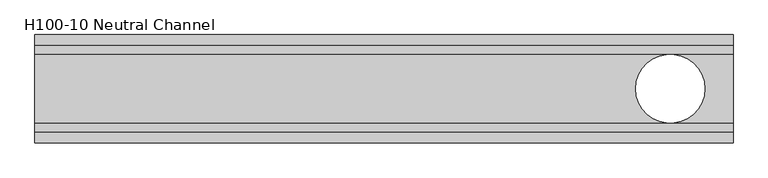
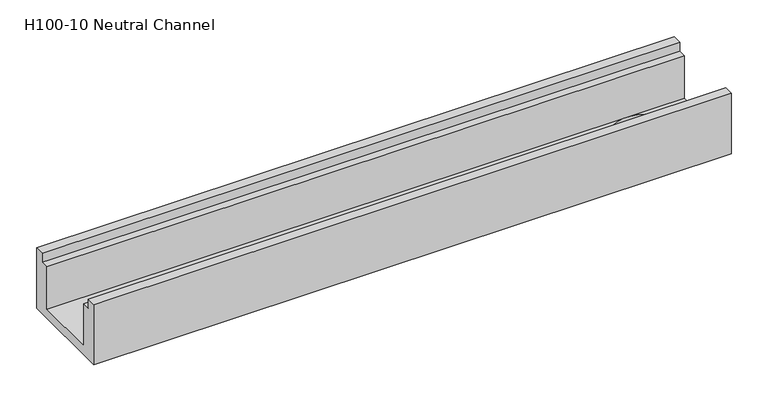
"""IFC4 building model written with IfcOpenShell, lengths in millimetres: sanitary terminal geometry, PF_ST_Slabdrain_H100_channels_USA_ACO : H100-10 Neutral Channel."""

from ifc_helpers import new_model, si_unit, frame, origin, place, context, project, spatial, polyline, circle_curve, source, transform, mapped, element, save
from ifc_brep_helpers import plane_surface, revolved_surface, advanced_brep


def h100_10_neutral_channel_3a634591(model_context):
    return source(origin(), model_context, "Body", "AdvancedBrep", [
        advanced_brep(
        [(-605.6196554, 62.5, -98.0), (-605.6196554, 49.9996414, -98.0), (-605.6196554, 49.9996414, -168.0), (-605.6196554, -49.9996414, -168.0), (-605.6196554, -49.9996414, -98.0), (-605.6196554, -62.5, -98.0), (-605.6196554, -62.5, -83.0), (-605.6196554, -77.5, -83.0), (-605.6196554, -77.5, -183.0), (-605.6196554, 77.5, -183.0), (-605.6196554, 77.5, -83.0), (-605.6196554, 62.5, -83.0), (-1605.6176554, 62.5, -98.0), (-1605.6176554, 62.5, -83.0), (-1605.6176554, 77.5, -83.0), (-1605.6176554, 77.5, -183.0), (-1605.6176554, -77.5, -183.0), (-1605.6176554, -77.5, -83.0), (-1605.6176554, -62.5, -83.0), (-1605.6176554, -62.5, -98.0), (-1605.6176554, -49.9990295, -98.0), (-1605.6176554, -49.9990295, -168.0), (-1605.6176554, 49.9990295, -168.0), (-1605.6176554, 49.9990295, -98.0), (-745.1196554, 0.0, -183.0), (-646.1196554, 0.0, -183.0), (-646.1196554, 0.0, -168.0), (-745.1196554, 0.0, -168.0)],
        [
            (0, 1),
            (1, 2),
            (2, 3),
            (3, 4),
            (4, 5),
            (5, 6),
            (6, 7),
            (7, 8),
            (8, 9),
            (9, 10),
            (10, 11),
            (11, 0),
            (12, 13),
            (13, 14),
            (14, 15),
            (15, 16),
            (16, 17),
            (17, 18),
            (18, 19),
            (19, 20),
            (20, 21),
            (21, 22),
            (22, 23),
            (23, 12),
            (0, 12),
            (23, 1),
            (4, 20),
            (19, 5),
            (7, 17),
            (16, 8),
            (15, 9),
            (24, 25, circle_curve(frame((-695.6196554, 0.0, -183.0), z_axis=(0.0, 0.0, 1.0), x_axis=(1.0, 0.0, 0.0)), 49.5)),
            (25, 24, circle_curve(frame((-695.6196554, 0.0, -183.0), z_axis=(0.0, 0.0, 1.0), x_axis=(1.0, 0.0, 0.0)), 49.5)),
            (14, 10),
            (22, 2),
            (21, 3),
            (26, 27, circle_curve(frame((-695.6196554, 0.0, -168.0), z_axis=(0.0, 0.0, -1.0), x_axis=(1.0, 0.0, 0.0)), 49.5)),
            (27, 26, circle_curve(frame((-695.6196554, 0.0, -168.0), z_axis=(0.0, 0.0, -1.0), x_axis=(1.0, 0.0, 0.0)), 49.5)),
            (26, 25),
            (24, 27),
            (18, 6),
            (13, 11),
        ],
        [
            plane_surface(frame((-605.6196554, 0.0, -118.8333333), z_axis=(1.0, 0.0, 0.0), x_axis=(0.0, -1.0, 0.0))),
            plane_surface(frame((-1605.6176554, 0.0, -118.8333333), z_axis=(-1.0, 0.0, 0.0), x_axis=(0.0, -1.0, 0.0))),
            plane_surface(frame((-1605.6176554, 56.2495148, -98.0), z_axis=(0.0, 0.0, 1.0), x_axis=(0.0, -1.0, 0.0))),
            plane_surface(frame((-1605.6176554, -56.2495148, -98.0), z_axis=(0.0, 0.0, 1.0), x_axis=(0.0, -1.0, 0.0))),
            plane_surface(frame((-1605.6176554, -77.5, -133.0), z_axis=(0.0, -1.0, 0.0), x_axis=(0.0, 0.0, -1.0))),
            plane_surface(frame((-1605.6176554, 0.0, -183.0), z_axis=(0.0, 0.0, -1.0), x_axis=(0.0, 1.0, 0.0))),
            plane_surface(frame((-1605.6176554, 77.5, -133.0), z_axis=(0.0, 1.0, 0.0), x_axis=(0.0, 0.0, 1.0))),
            plane_surface(frame((-1605.6176554, 49.9990295, -133.0), z_axis=(6.118709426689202e-07, -0.9999999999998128, 0.0), x_axis=(0.0, 0.0, -1.0))),
            plane_surface(frame((-1605.6176554, 0.0, -168.0), z_axis=(0.0, 0.0, 1.0), x_axis=(0.0, -1.0, 0.0))),
            plane_surface(frame((-1605.6176554, -49.9990295, -133.0), z_axis=(6.118709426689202e-07, 0.9999999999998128, 0.0), x_axis=(0.0, 0.0, 1.0))),
            revolved_surface(polyline([(-646.1196554, 0.0, -183.0), (-646.1196554, 0.0, -168.0)]), (-695.6196554, 0.0, 0.0), (0.0, 0.0, -1.0)),
            plane_surface(frame((-1605.6176554, -62.5, -90.5), z_axis=(0.0, 1.0, 0.0), x_axis=(0.0, 0.0, 1.0))),
            plane_surface(frame((-1605.6176554, -70.0, -83.0), z_axis=(0.0, 0.0, 1.0), x_axis=(0.0, -1.0, 0.0))),
            plane_surface(frame((-1605.6176554, 70.0, -83.0), z_axis=(0.0, 0.0, 1.0), x_axis=(0.0, -1.0, 0.0))),
            plane_surface(frame((-1605.6176554, 62.5, -90.5), z_axis=(0.0, -1.0, 0.0), x_axis=(0.0, 0.0, -1.0))),
        ],
        [
            (0, [[1, 2, 3, 4, 5, 6, 7, 8, 9, 10, 11, 12]]),
            (1, [[13, 14, 15, 16, 17, 18, 19, 20, 21, 22, 23, 24]]),
            (2, [[-1, 25, -24, 26]]),
            (3, [[-5, 27, -20, 28]]),
            (4, [[-8, 29, -17, 30]]),
            (5, [[-9, -30, -16, 31], [32, 33]]),
            (6, [[-10, -31, -15, 34]]),
            (7, [[-2, -26, -23, 35]]),
            (8, [[-3, -35, -22, 36], [37, 38]]),
            (9, [[-4, -36, -21, -27]]),
            (10, [[39, -32, 40, -37]]),
            (10, [[-39, -38, -40, -33]]),
            (11, [[-6, -28, -19, 41]]),
            (12, [[-7, -41, -18, -29]]),
            (13, [[-11, -34, -14, 42]]),
            (14, [[-12, -42, -13, -25]]),
        ],
    ),
    ])


if __name__ == "__main__":
    model = new_model("IFC4")
    model_context = context("Model", 3, world=origin())
    ifc_project = project(units=[si_unit("LENGTHUNIT", "METRE", prefix="MILLI")], contexts=[model_context])
    site = spatial("IfcSite", under=ifc_project)
    building = spatial("IfcBuilding", under=site)
    placement = place(None, origin())
    h100_10_neutral_channel_shape = h100_10_neutral_channel_3a634591(model_context)
    element("IfcSanitaryTerminal", 1, ObjectType="PF_ST_Slabdrain_H100_channels_USA_ACO : H100-10 Neutral Channel", at=placement, inside=building, context=model_context, shape_type="MappedRepresentation", body=[
        mapped(h100_10_neutral_channel_shape, transform((0.0, 0.0, 0.0), x_axis=(1.0, 0.0, 0.0), y_axis=(0.0, 1.0, 0.0), z_axis=(0.0, 0.0, 1.0))),
    ])
    save(model, "model.ifc")
